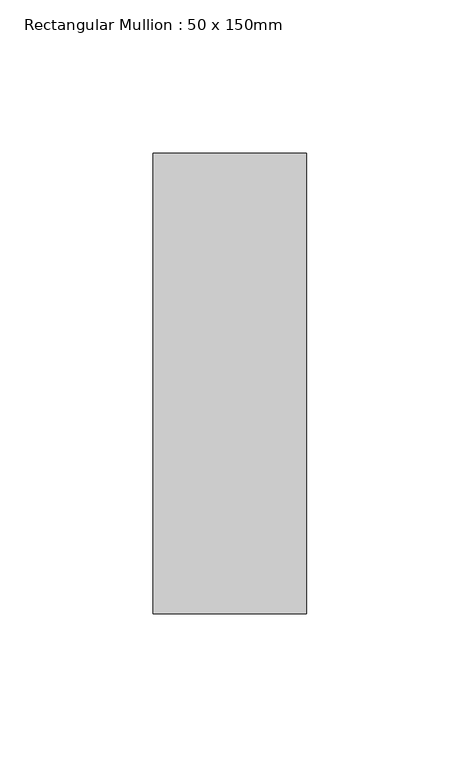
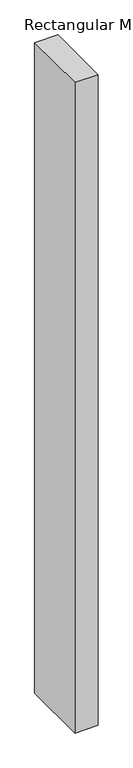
"""IFC4 building model written with IfcOpenShell, lengths in millimetres: member geometry, Rectangular Mullion : 50 x 150mm."""

from ifc_helpers import new_model, si_unit, frame, origin, place, context, project, spatial, polyline, outline, extrude, source, transform, mapped, element, save


def rectangular_mullion_50_x_150mm_3b5711fc(model_context):
    return source(origin(), model_context, "Body", "SweptSolid", [
        extrude(outline(polyline([(0.0, 75.0), (0.0, -75.0), (-50.0, -75.0), (-50.0, 75.0), (0.0, 75.0)])), frame((0.0, 0.0, -1485.6), z_axis=(0.0, 0.0, 1.0), x_axis=(1.0, 0.0, 0.0)), (0.0, 0.0, 1.0), 1485.6),
    ])


if __name__ == "__main__":
    model = new_model("IFC4")
    model_context = context("Model", 3, world=origin())
    ifc_project = project(units=[si_unit("LENGTHUNIT", "METRE", prefix="MILLI")], contexts=[model_context])
    site = spatial("IfcSite", under=ifc_project)
    building = spatial("IfcBuilding", under=site)
    placement = place(None, origin())
    rectangular_mullion_50_x_150mm_shape = rectangular_mullion_50_x_150mm_3b5711fc(model_context)
    element("IfcMember", 1, ObjectType="Rectangular Mullion : 50 x 150mm", at=placement, inside=building, context=model_context, shape_type="MappedRepresentation", body=[
        mapped(rectangular_mullion_50_x_150mm_shape, transform((0.0, 0.0, 0.0), x_axis=(1.0, 0.0, 0.0), y_axis=(0.0, 1.0, 0.0), z_axis=(0.0, 0.0, 1.0))),
    ])
    save(model, "model.ifc")
